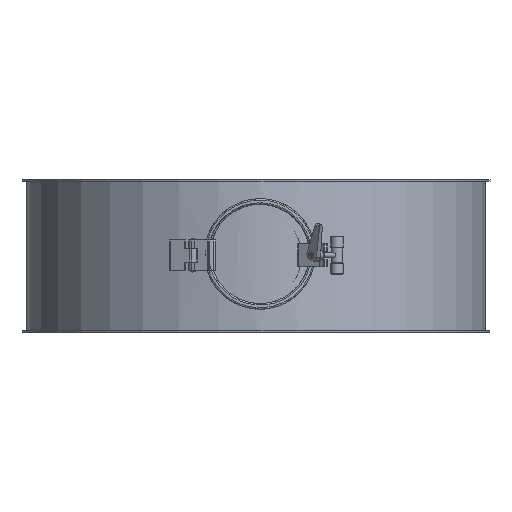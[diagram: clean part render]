
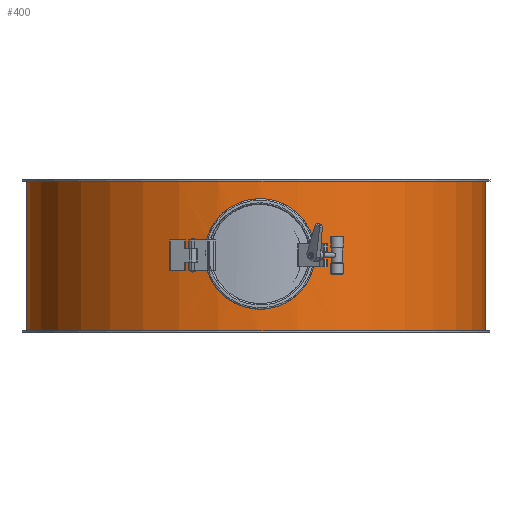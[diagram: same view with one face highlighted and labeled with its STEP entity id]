
A CAD part, left-side view. The second image highlights one B-rep face of the part: STEP entity #400.
In plain terms, the highlighted cylindrical face has radius 301 mm (diameter 602 mm), a full revolution.
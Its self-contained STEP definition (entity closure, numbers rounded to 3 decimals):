
#185=CARTESIAN_POINT('',(-295.457,-57.5,100.));
#186=VERTEX_POINT('',#185);
#187=CARTESIAN_POINT('',(-295.457,-57.5,100.));
#188=CARTESIAN_POINT('',(-295.457,-57.5,96.38));
#189=CARTESIAN_POINT('',(-295.525,-57.153,92.64));
#190=CARTESIAN_POINT('',(-295.804,-55.693,85.206));
#191=CARTESIAN_POINT('',(-296.014,-54.581,81.511));
#192=CARTESIAN_POINT('',(-296.54,-51.644,74.431));
#193=CARTESIAN_POINT('',(-296.857,-49.817,71.038));
#194=CARTESIAN_POINT('',(-297.534,-45.598,64.768));
#195=CARTESIAN_POINT('',(-297.894,-43.206,61.889));
#196=CARTESIAN_POINT('',(-298.589,-38.111,56.794));
#197=CARTESIAN_POINT('',(-298.948,-35.233,54.402));
#198=CARTESIAN_POINT('',(-299.62,-28.962,50.183));
#199=CARTESIAN_POINT('',(-299.933,-25.569,48.356));
#200=CARTESIAN_POINT('',(-300.453,-18.489,45.419));
#201=CARTESIAN_POINT('',(-300.659,-14.794,44.307));
#202=CARTESIAN_POINT('',(-300.933,-7.36,42.847));
#203=CARTESIAN_POINT('',(-301.0,-3.619,42.5));
#204=CARTESIAN_POINT('',(-301.0,3.619,42.5));
#205=CARTESIAN_POINT('',(-300.933,7.36,42.847));
#206=CARTESIAN_POINT('',(-300.659,14.794,44.307));
#207=CARTESIAN_POINT('',(-300.453,18.489,45.419));
#208=CARTESIAN_POINT('',(-299.933,25.569,48.356));
#209=CARTESIAN_POINT('',(-299.62,28.962,50.183));
#210=CARTESIAN_POINT('',(-298.948,35.233,54.402));
#211=CARTESIAN_POINT('',(-298.589,38.111,56.794));
#212=CARTESIAN_POINT('',(-297.894,43.206,61.889));
#213=CARTESIAN_POINT('',(-297.534,45.598,64.768));
#214=CARTESIAN_POINT('',(-296.857,49.817,71.038));
#215=CARTESIAN_POINT('',(-296.54,51.644,74.431));
#216=CARTESIAN_POINT('',(-296.014,54.581,81.511));
#217=CARTESIAN_POINT('',(-295.804,55.693,85.206));
#218=CARTESIAN_POINT('',(-295.525,57.153,92.64));
#219=CARTESIAN_POINT('',(-295.457,57.5,96.38));
#220=CARTESIAN_POINT('',(-295.457,57.5,103.62));
#221=CARTESIAN_POINT('',(-295.525,57.153,107.36));
#222=CARTESIAN_POINT('',(-295.804,55.693,114.794));
#223=CARTESIAN_POINT('',(-296.014,54.581,118.489));
#224=CARTESIAN_POINT('',(-296.54,51.644,125.569));
#225=CARTESIAN_POINT('',(-296.857,49.817,128.962));
#226=CARTESIAN_POINT('',(-297.534,45.598,135.232));
#227=CARTESIAN_POINT('',(-297.894,43.206,138.111));
#228=CARTESIAN_POINT('',(-298.589,38.111,143.206));
#229=CARTESIAN_POINT('',(-298.948,35.233,145.598));
#230=CARTESIAN_POINT('',(-299.62,28.962,149.817));
#231=CARTESIAN_POINT('',(-299.933,25.569,151.644));
#232=CARTESIAN_POINT('',(-300.453,18.489,154.581));
#233=CARTESIAN_POINT('',(-300.659,14.794,155.693));
#234=CARTESIAN_POINT('',(-300.933,7.36,157.153));
#235=CARTESIAN_POINT('',(-301.0,3.619,157.5));
#236=CARTESIAN_POINT('',(-301.0,-3.619,157.5));
#237=CARTESIAN_POINT('',(-300.933,-7.36,157.153));
#238=CARTESIAN_POINT('',(-300.659,-14.794,155.693));
#239=CARTESIAN_POINT('',(-300.453,-18.489,154.581));
#240=CARTESIAN_POINT('',(-299.933,-25.569,151.644));
#241=CARTESIAN_POINT('',(-299.62,-28.962,149.817));
#242=CARTESIAN_POINT('',(-298.948,-35.233,145.598));
#243=CARTESIAN_POINT('',(-298.589,-38.111,143.206));
#244=CARTESIAN_POINT('',(-297.894,-43.206,138.111));
#245=CARTESIAN_POINT('',(-297.534,-45.598,135.232));
#246=CARTESIAN_POINT('',(-296.857,-49.817,128.962));
#247=CARTESIAN_POINT('',(-296.54,-51.644,125.569));
#248=CARTESIAN_POINT('',(-296.014,-54.581,118.489));
#249=CARTESIAN_POINT('',(-295.804,-55.693,114.794));
#250=CARTESIAN_POINT('',(-295.525,-57.153,107.36));
#251=CARTESIAN_POINT('',(-295.457,-57.5,103.62));
#252=CARTESIAN_POINT('',(-295.457,-57.5,100.0));
#253=B_SPLINE_CURVE_WITH_KNOTS('',3,(#187,#188,#189,#190,#191,#192,#193,#194,#195,#196,#197,#198,#199,#200,#201,#202,#203,#204,#205,#206,#207,#208,#209,#210,#211,#212,#213,#214,#215,#216,#217,#218,#219,#220,#221,#222,#223,#224,#225,#226,#227,#228,#229,#230,#231,#232,#233,#234,#235,#236,#237,#238,#239,#240,#241,#242,#243,#244,#245,#246,#247,#248,#249,#250,#251,#252),.UNSPECIFIED.,.T.,.U.,(4,2,2,2,2,2,2,2,2,2,2,2,2,2,2,2,2,2,2,2,2,2,2,2,2,2,2,2,2,2,2,2,4),(0.0,1.086,2.172,3.258,4.343,5.429,6.515,7.601,8.687,9.773,10.858,11.944,13.03,14.116,15.202,16.288,17.374,18.459,19.545,20.631,21.717,22.803,23.889,24.975,26.06,27.146,28.232,29.318,30.404,31.49,32.575,33.661,34.747),.UNSPECIFIED.);
#254=EDGE_CURVE('',#186,#186,#253,.T.);
#295=CARTESIAN_POINT('',(301.0,0.,198.0));
#296=VERTEX_POINT('',#295);
#297=CARTESIAN_POINT('',(0.0,0.0,198.0));
#298=DIRECTION('',(0.0,0.0,-1.0));
#299=DIRECTION('',(-1.0,0.0,0.0));
#300=AXIS2_PLACEMENT_3D('',#297,#298,#299);
#301=CIRCLE('',#300,301.0);
#302=EDGE_CURVE('',#296,#296,#301,.T.);
#343=CARTESIAN_POINT('',(-301.0,0.,2.0));
#344=VERTEX_POINT('',#343);
#345=CARTESIAN_POINT('',(0.0,0.0,2.0));
#346=DIRECTION('',(0.0,0.0,1.0));
#347=DIRECTION('',(-1.0,0.0,0.0));
#348=AXIS2_PLACEMENT_3D('',#345,#346,#347);
#349=CIRCLE('',#348,301.0);
#350=EDGE_CURVE('',#344,#344,#349,.T.);
#386=CARTESIAN_POINT('',(0.0,0.0,0.0));
#387=DIRECTION('',(0.0,0.0,1.0));
#388=DIRECTION('',(-1.0,0.0,0.0));
#389=AXIS2_PLACEMENT_3D('',#386,#387,#388);
#390=CYLINDRICAL_SURFACE('',#389,301.0);
#391=ORIENTED_EDGE('',*,*,#302,.T.);
#392=EDGE_LOOP('',(#391));
#393=FACE_OUTER_BOUND('',#392,.T.);
#394=ORIENTED_EDGE('',*,*,#254,.T.);
#395=EDGE_LOOP('',(#394));
#396=FACE_BOUND('',#395,.T.);
#397=ORIENTED_EDGE('',*,*,#350,.T.);
#398=EDGE_LOOP('',(#397));
#399=FACE_BOUND('',#398,.T.);
#400=ADVANCED_FACE('',(#393,#396,#399),#390,.T.);
